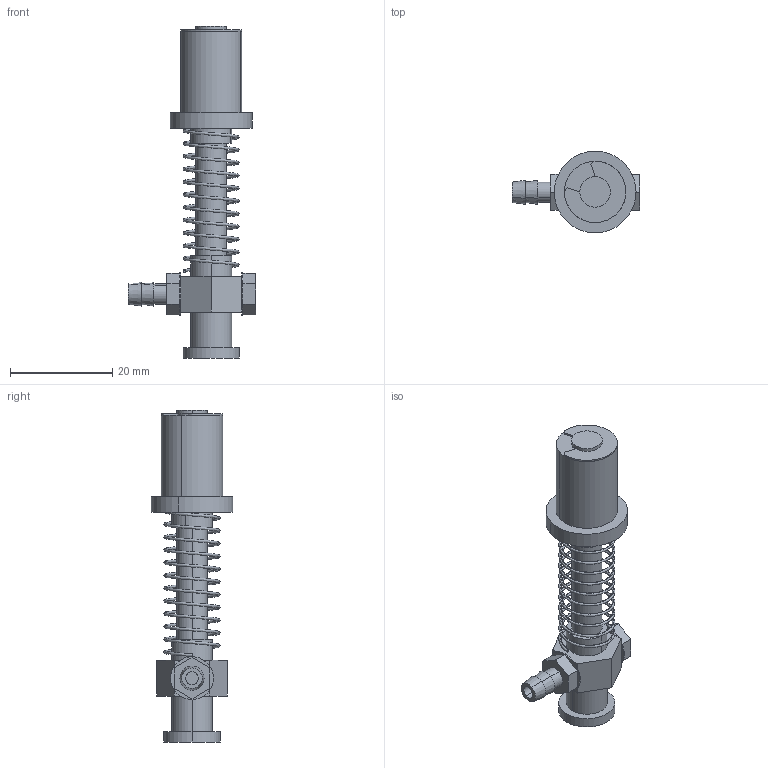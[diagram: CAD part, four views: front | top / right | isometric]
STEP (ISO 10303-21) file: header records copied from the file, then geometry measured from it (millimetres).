
FILE_DESCRIPTION (( 'STEP AP214' ), '1' );
FILE_NAME ('VFM-2012.STEP', '2019-11-16T02:08:01', ( '微软用户' ), ( '微软中国' ), 'SwSTEP 2.0', 'SolidWorks 2016', '' );
FILE_SCHEMA (( 'AUTOMOTIVE_DESIGN' ));
Length unit declared in the file: millimetre
Products named in the file (1): VFM-2012
Bounding box: 24.9 x 16 x 65 mm (x, y, z)
Volume: 5062.5 mm3; surface area: 5230.1 mm2
Topology: 9 solids, 9 shells, 140 faces, 329 edges, 217 vertices
Faces by surface type: cylinder 72, plane 56, cone 6, bspline 6
Entity records: 10572 total; most frequent: CARTESIAN_POINT 5784, ORIENTED_EDGE 654, DIRECTION 625, EDGE_CURVE 327, AXIS2_PLACEMENT_3D 237, VERTEX_POINT 217, EDGE_LOOP 164, UNCERTAINTY_MEASURE_WITH_UNIT 151
